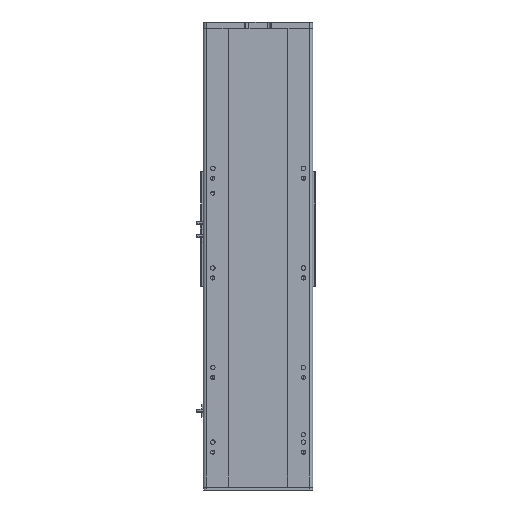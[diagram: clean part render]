
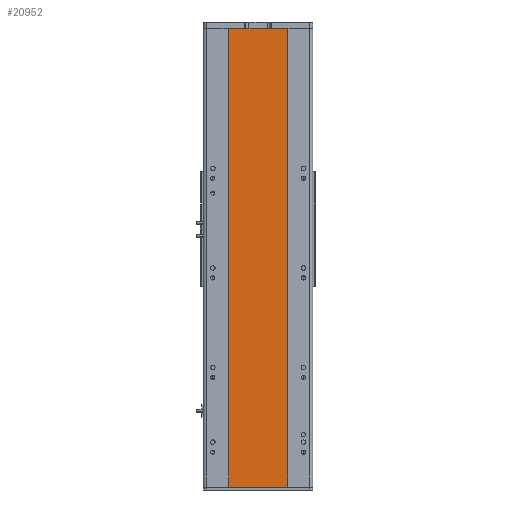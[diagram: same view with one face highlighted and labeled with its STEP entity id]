
A CAD part, front view. The second image highlights one B-rep face of the part: STEP entity #20952.
In plain terms, the highlighted planar face has unit normal (0, -1, 0).
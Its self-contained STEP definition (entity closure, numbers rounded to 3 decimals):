
#2876 = ORIENTED_EDGE ( 'NONE', *, *, #35623, .T. ) ;
#3158 = AXIS2_PLACEMENT_3D ( 'NONE', #7608, #19024, #7373 ) ;
#4085 = DIRECTION ( 'NONE',  ( 0., 0., -1. ) ) ;
#5951 = LINE ( 'NONE', #33995, #27121 ) ;
#6357 = EDGE_CURVE ( 'NONE', #27092, #13719, #30906, .T. ) ;
#6925 = CARTESIAN_POINT ( 'NONE',  ( 59., 1., -460.5 ) ) ;
#7373 = DIRECTION ( 'NONE',  ( -1., 0., 0. ) ) ;
#7608 = CARTESIAN_POINT ( 'NONE',  ( -59., 1., 460.5 ) ) ;
#7613 = VERTEX_POINT ( 'NONE', #6925 ) ;
#10925 = ORIENTED_EDGE ( 'NONE', *, *, #24212, .F. ) ;
#13100 = DIRECTION ( 'NONE',  ( 0., 0., -1. ) ) ;
#13640 = FACE_OUTER_BOUND ( 'NONE', #30963, .T. ) ;
#13719 = VERTEX_POINT ( 'NONE', #27582 ) ;
#16012 = VECTOR ( 'NONE', #23131, 1000. ) ;
#18044 = VECTOR ( 'NONE', #13100, 1000. ) ;
#19024 = DIRECTION ( 'NONE',  ( 0., 1., 0. ) ) ;
#19029 = VECTOR ( 'NONE', #4085, 1000. ) ;
#19305 = ORIENTED_EDGE ( 'NONE', *, *, #6357, .T. ) ;
#20076 = CARTESIAN_POINT ( 'NONE',  ( -59., 1., -460.5 ) ) ;
#20952 = ADVANCED_FACE ( 'NONE', ( #13640 ), #33039, .F. ) ;
#21261 = CARTESIAN_POINT ( 'NONE',  ( 59., 1., 460.5 ) ) ;
#21276 = EDGE_CURVE ( 'NONE', #31200, #7613, #32109, .T. ) ;
#23098 = LINE ( 'NONE', #20076, #16012 ) ;
#23131 = DIRECTION ( 'NONE',  ( 1., 0., 0. ) ) ;
#23976 = CARTESIAN_POINT ( 'NONE',  ( -59., 1., 460.5 ) ) ;
#24212 = EDGE_CURVE ( 'NONE', #27092, #31200, #5951, .T. ) ;
#24853 = CARTESIAN_POINT ( 'NONE',  ( -59., 1., 460.5 ) ) ;
#25676 = DIRECTION ( 'NONE',  ( 1., 0., 0. ) ) ;
#25950 = ORIENTED_EDGE ( 'NONE', *, *, #21276, .F. ) ;
#27092 = VERTEX_POINT ( 'NONE', #24853 ) ;
#27121 = VECTOR ( 'NONE', #25676, 1000. ) ;
#27582 = CARTESIAN_POINT ( 'NONE',  ( -59., 1., -460.5 ) ) ;
#30906 = LINE ( 'NONE', #23976, #19029 ) ;
#30963 = EDGE_LOOP ( 'NONE', ( #2876, #25950, #10925, #19305 ) ) ;
#31200 = VERTEX_POINT ( 'NONE', #33240 ) ;
#32109 = LINE ( 'NONE', #21261, #18044 ) ;
#33039 = PLANE ( 'NONE',  #3158 ) ;
#33240 = CARTESIAN_POINT ( 'NONE',  ( 59., 1., 460.5 ) ) ;
#33995 = CARTESIAN_POINT ( 'NONE',  ( -59., 1., 460.5 ) ) ;
#35623 = EDGE_CURVE ( 'NONE', #13719, #7613, #23098, .T. ) ;
